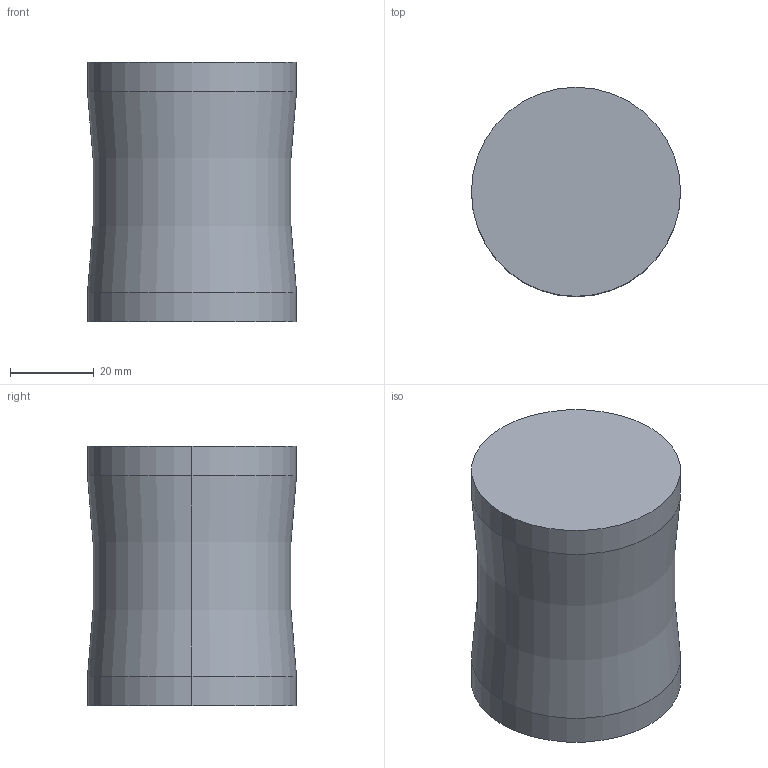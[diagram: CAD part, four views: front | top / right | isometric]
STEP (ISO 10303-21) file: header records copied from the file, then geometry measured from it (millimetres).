
FILE_DESCRIPTION(/* description */ (''),/* implementation_level */ '2;1');
FILE_NAME(/* name */ '3d_ex5060_06508_r00.stp',/* time_stamp */ '2011-01-10T14:15:38+09:00',/* author */ ('MISUMI'),/* organization */ (''),/* preprocessor_version */ 'ST-DEVELOPER v11',/* originating_system */ 'UGS - NX 5.0',/* authorisation */ '');
FILE_SCHEMA (('CONFIG_CONTROL_DESIGN'));
Length unit declared in the file: millimetre
Products named in the file (1): 3d_ex5060_06508_r00
Bounding box: 50 x 50 x 62 mm (x, y, z)
Volume: 114372.2 mm3; surface area: 13383.2 mm2
Topology: 1 solids, 1 shells, 8 faces, 14 edges, 8 vertices
Faces by surface type: cylinder 4, plane 2, torus 2
Entity records: 282 total; most frequent: DIRECTION 42, CARTESIAN_POINT 31, ORIENTED_EDGE 28, AXIS2_PLACEMENT_3D 19, EDGE_CURVE 14, CIRCLE 10, ADVANCED_FACE 8, FACE_OUTER_BOUND 8
